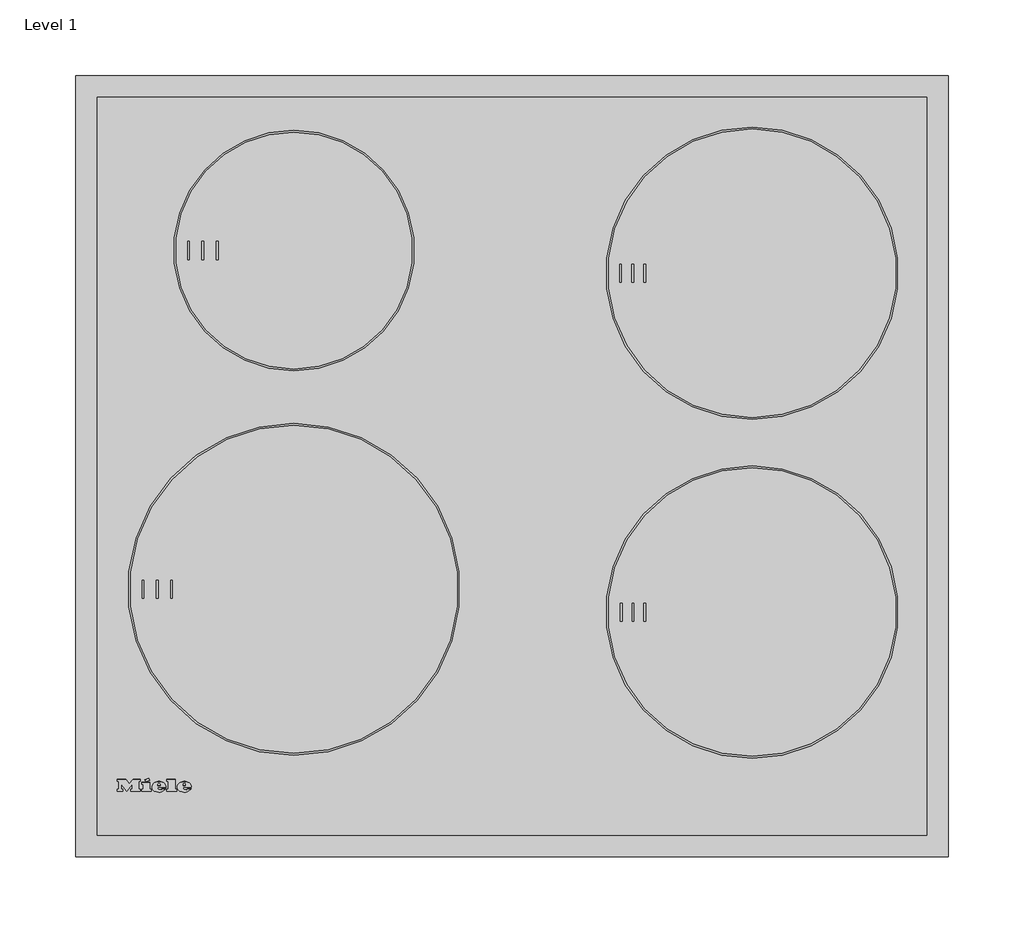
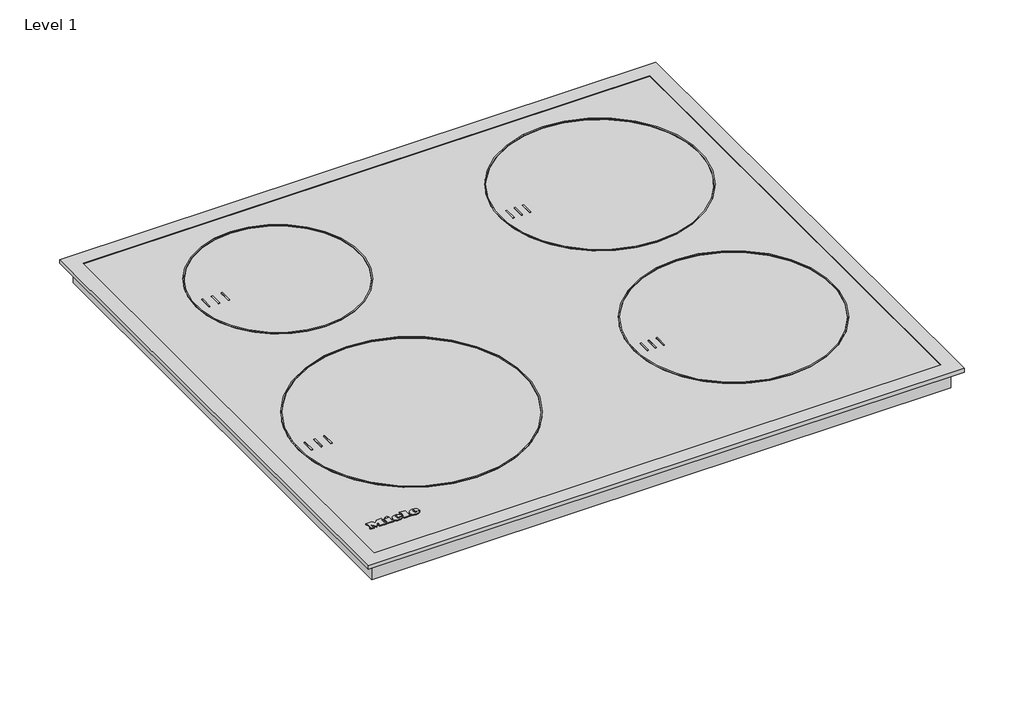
# One storey: 1 proxy.
"""IFC4 building model written with IfcOpenShell, lengths in millimetres."""

import ifcopenshell
import ifcopenshell.guid

model = None  # the IFC model being written
_history = None  # IfcOwnerHistory: only IFC2X3 demands one
_inside = {}  # id of a spatial element -> (the spatial element, [elements in it])
_under = {}  # id of a project, library or spatial element -> (it, [spatial elements below it])
_declared = {}  # id of a project -> (the project, [libraries it declares])
_typed = {}  # id of a type object -> (the type object, [elements of that type])
_made_of = {}  # id of a material, layer set ... -> (it, [elements and type objects made of it])


def new_model(schema):
    """Start an empty IFC model of exactly this schema.

    Asked for "IFC4X3", IfcOpenShell would pick the latest addendum, in which some entities
    have other attributes; the version numbers below select the first issue.
    IFC2X3 requires an IfcOwnerHistory on every rooted entity: one is made here for all.
    """
    global model, _history
    if schema == "IFC4X3":
        model = ifcopenshell.file(schema_version=(4, 3, 0, 0))
    else:
        model = ifcopenshell.file(schema=schema)
    _inside.clear()
    _under.clear()
    _declared.clear()
    _typed.clear()
    _made_of.clear()
    _history = None
    if model.schema == "IFC2X3":
        org = make("IfcOrganization", Name="unknown")
        user = make(
            "IfcPersonAndOrganization",
            ThePerson=make("IfcPerson", FamilyName="unknown"),
            TheOrganization=org,
        )
        app = make(
            "IfcApplication",
            ApplicationDeveloper=org,
            Version="unknown",
            ApplicationFullName="unknown",
            ApplicationIdentifier="unknown",
        )
        _history = make(
            "IfcOwnerHistory",
            OwningUser=user,
            OwningApplication=app,
            ChangeAction="ADDED",
            CreationDate=0,
        )
    return model


def make(cls, **values):
    """One entity of the class cls with the attributes given. An attribute that is None is left unset."""
    return model.create_entity(
        cls, **{name: value for name, value in values.items() if value is not None}
    )


def rooted(cls, **values):
    """An entity with a GlobalId (a new one), such as an element, a storey or a relation."""
    return make(cls, GlobalId=ifcopenshell.guid.new(), OwnerHistory=_history, **values)


def si_unit(unit_type, name, prefix=None):
    """IfcSIUnit, for example si_unit("LENGTHUNIT", "METRE", prefix="MILLI")."""
    return make("IfcSIUnit", UnitType=unit_type, Prefix=prefix, Name=name)


def assignment(units):
    """IfcUnitAssignment: the units of a project."""
    return None if units is None else make("IfcUnitAssignment", Units=units)


def point(xyz):
    """IfcCartesianPoint."""
    return None if xyz is None else make("IfcCartesianPoint", Coordinates=xyz)


def direction(xyz):
    """IfcDirection."""
    return None if xyz is None else make("IfcDirection", DirectionRatios=xyz)


def frame(location, z_axis=None, x_axis=None):
    """IfcAxis2Placement3D, a coordinate frame: its origin and axes. An axis left out is left unset."""
    return make(
        "IfcAxis2Placement3D",
        Location=point(location),
        Axis=direction(z_axis),
        RefDirection=direction(x_axis),
    )


def frame_2d(location, x_axis=None):
    """IfcAxis2Placement2D, a coordinate frame in the plane: its origin and x axis."""
    return make(
        "IfcAxis2Placement2D", Location=point(location), RefDirection=direction(x_axis)
    )


def origin():
    """The frame at (0, 0, 0) with its axes left unset."""
    return frame((0.0, 0.0, 0.0))


def origin_with_axes():
    """The frame at (0, 0, 0) with the z axis (0, 0, 1) and the x axis (1, 0, 0) written out."""
    return frame((0.0, 0.0, 0.0), z_axis=(0.0, 0.0, 1.0), x_axis=(1.0, 0.0, 0.0))


def place(relative_to, where):
    """IfcLocalPlacement: puts the frame where relative to a parent placement (None: the world)."""
    return make(
        "IfcLocalPlacement", PlacementRelTo=relative_to, RelativePlacement=where
    )


def context(
    kind, dimensions, precision=None, world=None, true_north=None, identifier=None
):
    """IfcGeometricRepresentationContext, for example the 3D "Model" context."""
    return make(
        "IfcGeometricRepresentationContext",
        ContextIdentifier=identifier,
        ContextType=kind,
        CoordinateSpaceDimension=dimensions,
        Precision=precision,
        WorldCoordinateSystem=world,
        TrueNorth=true_north,
    )


def project(units=None, contexts=None):
    """IfcProject with its units and contexts."""
    return rooted(
        "IfcProject",
        Name="project",
        RepresentationContexts=contexts,
        UnitsInContext=assignment(units),
    )


def spatial(cls, under=None, at=None, **own):
    """A site, building, storey or space (cls), placed at a placement, below another one or the project."""
    s = rooted(cls, ObjectPlacement=at, **own)
    if under is not None:
        _under.setdefault(under.id(), (under, []))[1].append(s)
    return s


def polyline(points):
    """IfcPolyline through the points."""
    return make("IfcPolyline", Points=[point(p) for p in points])


def circle_curve(where, radius):
    """IfcCircle in the frame where."""
    return make("IfcCircle", Position=where, Radius=radius)


def ellipse_curve(where, semi_axis1, semi_axis2):
    """IfcEllipse in the frame where."""
    return make(
        "IfcEllipse", Position=where, SemiAxis1=semi_axis1, SemiAxis2=semi_axis2
    )


def trimmed(basis, trim1, trim2, sense, master):
    """IfcTrimmedCurve: the piece of a basis curve between two trims."""
    return make(
        "IfcTrimmedCurve",
        BasisCurve=basis,
        Trim1=trim1,
        Trim2=trim2,
        SenseAgreement=sense,
        MasterRepresentation=master,
    )


def segment(curve, same_sense, transition):
    """IfcCompositeCurveSegment."""
    return make(
        "IfcCompositeCurveSegment",
        Transition=transition,
        SameSense=same_sense,
        ParentCurve=curve,
    )


def composite_curve(segments, self_intersect=None):
    """IfcCompositeCurve: segments joined end to end."""
    return make("IfcCompositeCurve", Segments=segments, SelfIntersect=self_intersect)


def outline(outer, holes=None, kind="AREA"):
    """IfcArbitraryClosedProfileDef: a profile drawn as a closed curve; with holes, ...WithVoids."""
    if holes is None:
        return make("IfcArbitraryClosedProfileDef", ProfileType=kind, OuterCurve=outer)
    return make(
        "IfcArbitraryProfileDefWithVoids",
        ProfileType=kind,
        OuterCurve=outer,
        InnerCurves=holes,
    )


def extrude(swept, where, along, depth):
    """IfcExtrudedAreaSolid: the profile swept, set in the frame where, extruded along a direction by depth."""
    return make(
        "IfcExtrudedAreaSolid",
        SweptArea=swept,
        Position=where,
        ExtrudedDirection=direction(along),
        Depth=depth,
    )


def faces_of(points, faces, orient=None, outer=None):
    """IfcFace entities. A face is a list of loops; a loop is a list of indices into points, from 0.

    orient and outer hold one flag for each loop. By default every Orientation is true, the
    first loop of a face is its IfcFaceOuterBound and the others are IfcFaceBound.
    """
    made = []
    for i, loops in enumerate(faces):
        bounds = []
        for j, loop in enumerate(loops):
            is_outer = j == 0 if outer is None else outer[i][j]
            bounds.append(
                make(
                    "IfcFaceOuterBound" if is_outer else "IfcFaceBound",
                    Bound=make("IfcPolyLoop", Polygon=[points[k] for k in loop]),
                    Orientation=True if orient is None else orient[i][j],
                )
            )
        made.append(make("IfcFace", Bounds=bounds))
    return made


def faceted_brep(points, faces, orient=None, outer=None, voids=None):
    """IfcFacetedBrep: a solid bounded by flat faces; with voids (closed shells), ...WithVoids."""
    shared = [point(p) for p in points]
    hull = make("IfcClosedShell", CfsFaces=faces_of(shared, faces, orient, outer))
    if voids is None:
        return make("IfcFacetedBrep", Outer=hull)
    return make(
        "IfcFacetedBrepWithVoids",
        Outer=hull,
        Voids=[
            make(cls, CfsFaces=faces_of(shared, fs, o, b)) for cls, fs, o, b in voids
        ],
    )


def shape(context_of_items, identifier, shape_type, items):
    """IfcShapeRepresentation: the items that make up one representation, for example the "Body"."""
    return make(
        "IfcShapeRepresentation",
        ContextOfItems=context_of_items,
        RepresentationIdentifier=identifier,
        RepresentationType=shape_type,
        Items=items,
    )


def source(mapping_origin, context_of_items, identifier, shape_type, items):
    """IfcRepresentationMap: a shape defined once, which mapped items show again and again."""
    return make(
        "IfcRepresentationMap",
        MappingOrigin=mapping_origin,
        MappedRepresentation=shape(context_of_items, identifier, shape_type, items),
    )


def transform(
    local_origin,
    x_axis=None,
    y_axis=None,
    z_axis=None,
    scale=None,
    scale2=None,
    scale3=None,
    uniform=True,
):
    """IfcCartesianTransformationOperator3D, or its non-uniform kind. x_axis, y_axis, z_axis: its Axis1, 2, 3."""
    if uniform:
        return make(
            "IfcCartesianTransformationOperator3D",
            Axis1=direction(x_axis),
            Axis2=direction(y_axis),
            LocalOrigin=point(local_origin),
            Scale=scale,
            Axis3=direction(z_axis),
        )
    return make(
        "IfcCartesianTransformationOperator3DnonUniform",
        Axis1=direction(x_axis),
        Axis2=direction(y_axis),
        LocalOrigin=point(local_origin),
        Scale=scale,
        Axis3=direction(z_axis),
        Scale2=scale2,
        Scale3=scale3,
    )


def mapped(mapping_source, mapping_target):
    """IfcMappedItem: shows the shape of a source again, moved by a transform."""
    return make(
        "IfcMappedItem", MappingSource=mapping_source, MappingTarget=mapping_target
    )


def made_of(thing, what):
    """Note that an element or type object is made of a material, layer set ...; save() writes the relation."""
    if what is not None:
        _made_of.setdefault(what.id(), (what, []))[1].append(thing)
    return thing


def element(
    cls,
    number,
    at=None,
    inside=None,
    cuts=None,
    type_object=None,
    material=None,
    context=None,
    identifier="Body",
    shape_type=None,
    held_by="IfcProductDefinitionShape",
    body=None,
    shapes=None,
    **own,
):
    """One element of the class cls, such as IfcWall. Its Tag is "e" and its number.

    at: its placement. inside: the storey or other place that contains it. cuts: it is an
    opening in that element (IfcRelVoidsElement). A single representation is given by context,
    identifier, shape_type and body (its items); several are given by shapes. held_by: the class
    of the entity that holds the representations. save() writes the other relations.
    """
    e = rooted(cls, Tag="e%d" % number, ObjectPlacement=at, **own)
    if body is not None:
        shapes = [shape(context, identifier, shape_type, body)]
    if shapes is not None:
        e.Representation = make(held_by, Representations=shapes)
    if inside is not None:
        _inside.setdefault(inside.id(), (inside, []))[1].append(e)
    if cuts is not None:
        rooted(
            "IfcRelVoidsElement", RelatingBuildingElement=cuts, RelatedOpeningElement=e
        )
    if type_object is not None:
        _typed.setdefault(type_object.id(), (type_object, []))[1].append(e)
    return made_of(e, material)


def aggregate(whole, parts):
    """IfcRelAggregates: a whole, such as a stair, and the parts it consists of."""
    return rooted("IfcRelAggregates", RelatingObject=whole, RelatedObjects=parts)


def save(model, path):
    """Write the relations noted so far, then the file.

    IfcRelAggregates (storeys below a building ...), IfcRelContainedInSpatialStructure (elements
    in a storey), IfcRelDefinesByType, IfcRelAssociatesMaterial and IfcRelDeclares: one each for
    every whole, place, type object, material and project.
    """
    for whole, parts in _under.values():
        aggregate(whole, parts)
    for where, things in _inside.values():
        rooted(
            "IfcRelContainedInSpatialStructure",
            RelatedElements=things,
            RelatingStructure=where,
        )
    for kind, things in _typed.values():
        rooted("IfcRelDefinesByType", RelatedObjects=things, RelatingType=kind)
    for what, things in _made_of.values():
        rooted("IfcRelAssociatesMaterial", RelatedObjects=things, RelatingMaterial=what)
    for by, libraries in _declared.values():
        rooted("IfcRelDeclares", RelatingContext=by, RelatedDefinitions=libraries)
    model.write(path)


def plane_surface(at):
    """IfcPlane: the flat surface through the origin of the frame at, square to its z axis."""
    return make("IfcPlane", Position=at)


def cylinder_surface(at, radius):
    """IfcCylindricalSurface: all points at the distance radius from the z axis of the frame at."""
    return make("IfcCylindricalSurface", Position=at, Radius=radius)


def revolved_surface(curve, axis_point, axis_direction):
    """IfcSurfaceOfRevolution: the curve turned about the line through axis_point along axis_direction."""
    return make(
        "IfcSurfaceOfRevolution",
        SweptCurve=make("IfcArbitraryOpenProfileDef", ProfileType="CURVE", Curve=curve),
        AxisPosition=make("IfcAxis1Placement", Location=point(axis_point), Axis=direction(axis_direction)),
    )


def extruded_surface(curve, direction_of_extrusion, depth):
    """IfcSurfaceOfLinearExtrusion: the curve pushed along a direction by depth."""
    return make(
        "IfcSurfaceOfLinearExtrusion",
        SweptCurve=make("IfcArbitraryOpenProfileDef", ProfileType="CURVE", Curve=curve),
        ExtrudedDirection=direction(direction_of_extrusion),
        Depth=depth,
    )


def advanced_brep(points, edges, surfaces, faces):
    """IfcAdvancedBrep: a solid bounded by faces that lie on surfaces and meet in shared edges.

    An edge is (start, end): straight between two places in points (the first is 0);
    or (start, end, curve); or (start, end, curve, False) where it runs against its curve.
    A face is (place in surfaces, loops), or (place, loops, False) where it looks against
    its surface's normal. A loop lists edges by number (the first is 1), with a minus sign
    where the edge is run from its end to its start. The first loop is the outer one.
    """
    corners = [point(p) for p in points]
    vertices = [make("IfcVertexPoint", VertexGeometry=c) for c in corners]
    made = []
    for start, end, *more in edges:
        made.append(
            make(
                "IfcEdgeCurve",
                EdgeStart=vertices[start],
                EdgeEnd=vertices[end],
                EdgeGeometry=more[0] if more else make("IfcPolyline", Points=[corners[start], corners[end]]),
                SameSense=more[1] if len(more) > 1 else True,
            )
        )
    hull = []
    for where, loops, *sense in faces:
        bounds = []
        for j, loop in enumerate(loops):
            ring = [make("IfcOrientedEdge", EdgeElement=made[abs(k) - 1], Orientation=k > 0) for k in loop]
            bounds.append(
                make(
                    "IfcFaceOuterBound" if j == 0 else "IfcFaceBound",
                    Bound=make("IfcEdgeLoop", EdgeList=ring),
                    Orientation=True,
                )
            )
        hull.append(make("IfcAdvancedFace", Bounds=bounds, FaceSurface=surfaces[where], SameSense=sense[0] if sense else True))
    return make("IfcAdvancedBrep", Outer=make("IfcClosedShell", CfsFaces=hull))


def specialty_equipment_da646efd(model_context):
    return source(origin(), model_context, "Body", "SolidModel", [
        extrude(outline(polyline([(279.0, 506.0), (279.0, 8.0), (-279.0, 8.0), (-279.0, 506.0), (279.0, 506.0)])), frame((0.0, 0.0, -18.0), z_axis=(0.0, 0.0, 1.0), x_axis=(1.0, 0.0, 0.0)), (0.0, 0.0, 1.0), 18.0),
        extrude(outline(polyline([(-192.8, 320.7), (-214.2, 320.7), (-214.2, 404.1), (-192.8, 404.1), (-192.8, 454.3), (213.2, 454.3), (213.2, 83.3), (-192.8, 83.3), (-192.8, 320.7)])), frame((0.0, 0.0, -47.7), z_axis=(0.0, 0.0, 1.0), x_axis=(1.0, 0.0, 0.0)), (0.0, 0.0, 1.0), 29.7),
        extrude(outline(polyline([(284.0, 508.0), (284.0, 1.0), (-284.0, 1.0), (-284.0, 508.0), (284.0, 508.0)])), origin_with_axes(), (0.0, 0.0, 1.0), 2.6),
        faceted_brep([(272.9, 499.9, 3.6), (272.9, 499.9, 2.6), (272.9, 14.1, 2.6), (272.9, 14.1, 3.6), (287.0, 514.0, 0.0), (287.0, 514.0, 3.6), (287.0, 0.0, 3.6), (287.0, 0.0, 0.0), (286.0, 513.0, 2.6), (286.0, 513.0, 0.0), (286.0, 1.0, 0.0), (286.0, 1.0, 2.6), (-272.9, 14.1, 2.6), (-272.9, 14.1, 3.6), (-287.0, 0.0, 3.6), (-287.0, 0.0, 0.0), (-286.0, 1.0, 0.0), (-286.0, 1.0, 2.6), (-272.9, 499.9, 2.6), (-272.9, 499.9, 3.6), (-287.0, 514.0, 3.6), (-287.0, 514.0, 0.0), (-286.0, 513.0, 0.0), (-286.0, 513.0, 2.6)], [[[0, 1, 2, 3]], [[4, 5, 6, 7]], [[8, 9, 10, 11]], [[3, 2, 12, 13]], [[7, 6, 14, 15]], [[11, 10, 16, 17]], [[13, 12, 18, 19]], [[15, 14, 20, 21]], [[17, 16, 22, 23]], [[19, 18, 1, 0]], [[5, 20, 14, 6], [3, 13, 19, 0]], [[21, 20, 5, 4]], [[7, 15, 21, 4], [9, 22, 16, 10]], [[23, 22, 9, 8]], [[11, 17, 23, 8], [1, 18, 12, 2]]]),
        extrude(outline(polyline([(151.2772603, 417.5), (143.9, 417.5), (143.9, 418.7557039), (150.0215564, 418.7557039), (150.0215564, 422.0519266), (144.370889, 422.0519266), (144.370889, 423.3076304), (150.0215564, 423.3076304), (150.0215564, 426.2899271), (144.056963, 426.2899271), (144.056963, 427.545631), (151.2772603, 427.545631), (151.2772603, 417.5)])), frame((0.0, 0.0, -78.7), z_axis=(0.0, 0.0, 1.0), x_axis=(1.0, 0.0, 0.0)), (0.0, 0.0, 1.0), 1.0),
        extrude(outline(polyline([(142.0164442, 417.5), (135.7379248, 417.5), (135.7379248, 418.7557039), (140.7607403, 418.7557039), (140.7607403, 427.545631), (142.0164442, 427.545631), (142.0164442, 417.5)])), frame((0.0, 0.0, -78.7), z_axis=(0.0, 0.0, 1.0), x_axis=(1.0, 0.0, 0.0)), (0.0, 0.0, 1.0), 1.0),
        extrude(outline(composite_curve([segment(trimmed(circle_curve(frame_2d((143.9, 422.5)), 7.5), [point((143.9, 430.0))], [point((143.9, 415.0))], False, "CARTESIAN"), True, "CONTINUOUS"), segment(trimmed(circle_curve(frame_2d((143.9, 422.5)), 7.5), [point((143.9, 415.0))], [point((143.9, 430.0))], False, "CARTESIAN"), True, "CONTINUOUS")], self_intersect=False)), frame((0.0, 0.0, -77.7), z_axis=(0.0, 0.0, 1.0), x_axis=(1.0, 0.0, 0.0)), (0.0, 0.0, 1.0), 30.0),
        extrude(outline(composite_curve([segment(trimmed(circle_curve(frame_2d((158.0, 384.1)), 96.2), [point((158.0, 480.3))], [point((158.0, 287.9))], False, "CARTESIAN"), True, "CONTINUOUS"), segment(trimmed(circle_curve(frame_2d((158.0, 384.1)), 96.2), [point((158.0, 287.9))], [point((158.0, 480.3))], False, "CARTESIAN"), True, "CONTINUOUS")], self_intersect=False), holes=[composite_curve([segment(trimmed(circle_curve(frame_2d((158.0, 384.1)), 95.0), [point((158.0, 479.1))], [point((158.0, 289.1))], True, "CARTESIAN"), True, "CONTINUOUS"), segment(trimmed(circle_curve(frame_2d((158.0, 384.1)), 95.0), [point((158.0, 289.1))], [point((158.0, 479.1))], True, "CARTESIAN"), True, "CONTINUOUS")], self_intersect=False)]), frame((0.0, 0.0, 2.6), z_axis=(0.0, 0.0, 1.0), x_axis=(1.0, 0.0, 0.0)), (0.0, 0.0, 1.0), 1.0),
        extrude(outline(polyline([(86.8, 390.1), (88.0, 390.1), (88.0, 378.1), (86.8, 378.1), (86.8, 390.1)])), frame((0.0, 0.0, 2.6), z_axis=(0.0, 0.0, 1.0), x_axis=(1.0, 0.0, 0.0)), (0.0, 0.0, 1.0), 1.0),
        extrude(outline(polyline([(78.8, 378.1), (78.8, 390.1), (80.0, 390.1), (80.0, 378.1), (78.8, 378.1)])), frame((0.0, 0.0, 2.6), z_axis=(0.0, 0.0, 1.0), x_axis=(1.0, 0.0, 0.0)), (0.0, 0.0, 1.0), 1.0),
        extrude(outline(polyline([(70.8, 390.1), (72.0, 390.1), (72.0, 378.1), (70.8, 378.1), (70.8, 390.1)])), frame((0.0, 0.0, 2.6), z_axis=(0.0, 0.0, 1.0), x_axis=(1.0, 0.0, 0.0)), (0.0, 0.0, 1.0), 1.0),
        extrude(outline(composite_curve([segment(trimmed(circle_curve(frame_2d((-143.5, 399.1)), 79.2), [point((-143.5, 478.3))], [point((-143.5, 319.9))], False, "CARTESIAN"), True, "CONTINUOUS"), segment(trimmed(circle_curve(frame_2d((-143.5, 399.1)), 79.2), [point((-143.5, 319.9))], [point((-143.5, 478.3))], False, "CARTESIAN"), True, "CONTINUOUS")], self_intersect=False), holes=[composite_curve([segment(trimmed(circle_curve(frame_2d((-143.5, 399.1)), 78.0), [point((-143.5, 477.1))], [point((-143.5, 321.1))], True, "CARTESIAN"), True, "CONTINUOUS"), segment(trimmed(circle_curve(frame_2d((-143.5, 399.1)), 78.0), [point((-143.5, 321.1))], [point((-143.5, 477.1))], True, "CARTESIAN"), True, "CONTINUOUS")], self_intersect=False)]), frame((0.0, 0.0, 2.6), z_axis=(0.0, 0.0, 1.0), x_axis=(1.0, 0.0, 0.0)), (0.0, 0.0, 1.0), 1.0),
        extrude(outline(polyline([(-194.7, 405.1), (-193.5, 405.1), (-193.5, 393.1), (-194.7, 393.1), (-194.7, 405.1)])), frame((0.0, 0.0, 2.6), z_axis=(0.0, 0.0, 1.0), x_axis=(1.0, 0.0, 0.0)), (0.0, 0.0, 1.0), 1.0),
        extrude(outline(polyline([(-204.1, 405.1), (-202.9, 405.1), (-202.9, 393.1), (-204.1, 393.1), (-204.1, 405.1)])), frame((0.0, 0.0, 2.6), z_axis=(0.0, 0.0, 1.0), x_axis=(1.0, 0.0, 0.0)), (0.0, 0.0, 1.0), 1.0),
        extrude(outline(polyline([(-213.5, 405.1), (-212.3, 405.1), (-212.3, 393.1), (-213.5, 393.1), (-213.5, 405.1)])), frame((0.0, 0.0, 2.6), z_axis=(0.0, 0.0, 1.0), x_axis=(1.0, 0.0, 0.0)), (0.0, 0.0, 1.0), 1.0),
        extrude(outline(composite_curve([segment(trimmed(circle_curve(frame_2d((158.0, 161.1)), 96.2), [point((158.0, 257.3))], [point((158.0, 64.9))], False, "CARTESIAN"), True, "CONTINUOUS"), segment(trimmed(circle_curve(frame_2d((158.0, 161.1)), 96.2), [point((158.0, 64.9))], [point((158.0, 257.3))], False, "CARTESIAN"), True, "CONTINUOUS")], self_intersect=False), holes=[composite_curve([segment(trimmed(circle_curve(frame_2d((158.0, 161.1)), 95.0), [point((158.0, 256.1))], [point((158.0, 66.1))], True, "CARTESIAN"), True, "CONTINUOUS"), segment(trimmed(circle_curve(frame_2d((158.0, 161.1)), 95.0), [point((158.0, 66.1))], [point((158.0, 256.1))], True, "CARTESIAN"), True, "CONTINUOUS")], self_intersect=False)]), frame((0.0, 0.0, 2.6), z_axis=(0.0, 0.0, 1.0), x_axis=(1.0, 0.0, 0.0)), (0.0, 0.0, 1.0), 1.0),
        extrude(outline(polyline([(86.8, 167.1), (88.0, 167.1), (88.0, 155.1), (86.8, 155.1), (86.8, 167.1)])), frame((0.0, 0.0, 2.6), z_axis=(0.0, 0.0, 1.0), x_axis=(1.0, 0.0, 0.0)), (0.0, 0.0, 1.0), 1.0),
        extrude(outline(polyline([(79.1, 167.1), (80.3, 167.1), (80.3, 155.1), (79.1, 155.1), (79.1, 167.1)])), frame((0.0, 0.0, 2.6), z_axis=(0.0, 0.0, 1.0), x_axis=(1.0, 0.0, 0.0)), (0.0, 0.0, 1.0), 1.0),
        extrude(outline(polyline([(71.4, 167.1), (72.6, 167.1), (72.6, 155.1), (71.4, 155.1), (71.4, 167.1)])), frame((0.0, 0.0, 2.6), z_axis=(0.0, 0.0, 1.0), x_axis=(1.0, 0.0, 0.0)), (0.0, 0.0, 1.0), 1.0),
        extrude(outline(composite_curve([segment(trimmed(circle_curve(frame_2d((-143.5, 176.1)), 109.2), [point((-143.5, 285.3))], [point((-143.5, 66.9))], False, "CARTESIAN"), True, "CONTINUOUS"), segment(trimmed(circle_curve(frame_2d((-143.5, 176.1)), 109.2), [point((-143.5, 66.9))], [point((-143.5, 285.3))], False, "CARTESIAN"), True, "CONTINUOUS")], self_intersect=False), holes=[composite_curve([segment(trimmed(circle_curve(frame_2d((-143.5, 176.1)), 108.0), [point((-143.5, 284.1))], [point((-143.5, 68.1))], True, "CARTESIAN"), True, "CONTINUOUS"), segment(trimmed(circle_curve(frame_2d((-143.5, 176.1)), 108.0), [point((-143.5, 68.1))], [point((-143.5, 284.1))], True, "CARTESIAN"), True, "CONTINUOUS")], self_intersect=False)]), frame((0.0, 0.0, 2.6), z_axis=(0.0, 0.0, 1.0), x_axis=(1.0, 0.0, 0.0)), (0.0, 0.0, 1.0), 1.0),
        extrude(outline(polyline([(-243.5, 182.1), (-242.3, 182.1), (-242.3, 170.1), (-243.5, 170.1), (-243.5, 182.1)])), frame((0.0, 0.0, 2.6), z_axis=(0.0, 0.0, 1.0), x_axis=(1.0, 0.0, 0.0)), (0.0, 0.0, 1.0), 1.0),
        extrude(outline(polyline([(-234.1, 182.1), (-232.9, 182.1), (-232.9, 170.1), (-234.1, 170.1), (-234.1, 182.1)])), frame((0.0, 0.0, 2.6), z_axis=(0.0, 0.0, 1.0), x_axis=(1.0, 0.0, 0.0)), (0.0, 0.0, 1.0), 1.0),
        extrude(outline(polyline([(-224.7, 182.1), (-223.5, 182.1), (-223.5, 170.1), (-224.7, 170.1), (-224.7, 182.1)])), frame((0.0, 0.0, 2.6), z_axis=(0.0, 0.0, 1.0), x_axis=(1.0, 0.0, 0.0)), (0.0, 0.0, 1.0), 1.0),
        advanced_brep(
        [(-216.34, 44.9948833, 6.0802537), (-216.34, 45.8028828, 6.0811551), (-210.988, 45.8028828, 6.0811551), (-220.3, 45.8028828, 6.0811551), (-218.1, 43.0988845, 6.0781386), (-211.124, 44.9948833, 6.0802537), (-213.54, 44.9948833, 6.0802537), (-215.444, 44.0988838, 6.0792542), (-216.34, 46.8268821, 6.0822974), (-216.34, 47.6988816, 6.0832701), (-214.972, 47.6988816, 6.0832701), (-214.972, 46.8268821, 6.0822974), (-216.34, 44.9959988, 5.0802543), (-215.444, 44.0999994, 5.0792548), (-213.54, 44.9959988, 5.0802543), (-211.124, 44.9959988, 5.0802543), (-218.1, 43.1, 5.0781393), (-220.3, 45.8039983, 5.0811557), (-210.988, 45.8039983, 5.0811557), (-216.34, 45.8039983, 5.0811557), (-216.34, 46.8279977, 5.082298), (-214.972, 46.8279977, 5.082298), (-214.972, 47.6999971, 5.0832707), (-216.34, 47.6999971, 5.0832707)],
        [
            (0, 1),
            (1, 2),
            (2, 3, ellipse_curve(frame((-215.644, 45.8028828, 6.0811551), z_axis=(0.0, -0.0011155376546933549, 0.9999993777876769), x_axis=(-1.0, 0.0, 0.0)), 4.656, 3.848)),
            (3, 4, circle_curve(frame((-217.2039564, 46.0748826, 6.0814585), z_axis=(0.0, -0.0011155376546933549, 0.9999993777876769), x_axis=(0.0, -0.9999993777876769, -0.0011155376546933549)), 3.1079688)),
            (4, 5, circle_curve(frame((-215.7372064, 48.1868813, 6.0838145), z_axis=(0.0, -0.0011155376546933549, 0.9999993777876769), x_axis=(0.0, -0.9999993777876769, -0.0011155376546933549)), 5.6098607)),
            (5, 6),
            (6, 7, circle_curve(frame((-215.0529412, 45.7388828, 6.0810837), z_axis=(0.0, 0.0011155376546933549, -0.9999993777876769), x_axis=(0.0, -0.9999993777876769, -0.0011155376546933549)), 1.6859795)),
            (7, 0, circle_curve(frame((-215.444, 44.9948833, 6.0802537), z_axis=(0.0, 0.0011155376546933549, -0.9999993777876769), x_axis=(0.0, -0.9999993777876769, -0.0011155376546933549)), 0.896)),
            (8, 9),
            (9, 10, circle_curve(frame((-215.656, 47.6988816, 6.0832701), z_axis=(0.0, 0.0011155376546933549, -0.9999993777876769), x_axis=(0.0, -0.9999993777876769, -0.0011155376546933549)), 0.684)),
            (10, 11),
            (11, 8),
            (12, 13, circle_curve(frame((-215.444, 44.9959988, 5.0802543), z_axis=(0.0, -0.0011155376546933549, 0.9999993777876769), x_axis=(0.0, -0.9999993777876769, -0.0011155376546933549)), 0.896)),
            (13, 14, circle_curve(frame((-215.0529412, 45.7399984, 5.0810843), z_axis=(0.0, -0.0011155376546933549, 0.9999993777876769), x_axis=(0.0, -0.9999993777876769, -0.0011155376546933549)), 1.6859795)),
            (14, 15),
            (15, 16, circle_curve(frame((-215.7372064, 48.1879968, 5.0838151), z_axis=(0.0, 0.0011155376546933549, -0.9999993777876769), x_axis=(0.0, -0.9999993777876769, -0.0011155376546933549)), 5.6098607)),
            (16, 17, circle_curve(frame((-217.2039564, 46.0759981, 5.0814591), z_axis=(0.0, 0.0011155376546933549, -0.9999993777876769), x_axis=(0.0, -0.9999993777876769, -0.0011155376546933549)), 3.1079688)),
            (17, 18, ellipse_curve(frame((-215.644, 45.8039983, 5.0811557), z_axis=(0.0, 0.0011155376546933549, -0.9999993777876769), x_axis=(-1.0, 0.0, 0.0)), 4.656, 3.848)),
            (18, 19),
            (19, 12),
            (20, 21),
            (21, 22),
            (22, 23, circle_curve(frame((-215.656, 47.6999971, 5.0832707), z_axis=(0.0, -0.0011155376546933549, 0.9999993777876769), x_axis=(0.0, -0.9999993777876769, -0.0011155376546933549)), 0.684)),
            (23, 20),
            (0, 12),
            (19, 1),
            (18, 2),
            (5, 15),
            (14, 6),
            (17, 3),
            (13, 7),
            (16, 4),
            (8, 20),
            (23, 9),
            (22, 10),
            (21, 11),
        ],
        [
            plane_surface(frame((-216.34, 45.8028828, 6.0811551), z_axis=(0.0, -0.0011155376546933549, 0.9999993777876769), x_axis=(0.0, 0.9999993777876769, 0.0011155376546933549))),
            plane_surface(frame((-216.34, 45.8039983, 5.0811557), z_axis=(0.0, 0.0011155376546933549, -0.9999993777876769), x_axis=(0.0, -0.9999993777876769, -0.0011155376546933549))),
            plane_surface(frame((-216.34, 44.9948833, 6.0802537), z_axis=(1.0000000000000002, 0.0, 0.0), x_axis=(0.0, 0.001115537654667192, -0.999999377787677))),
            plane_surface(frame((-216.34, 45.8028828, 6.0811551), z_axis=(0.0, -0.999999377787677, -0.001115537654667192), x_axis=(0.0, 0.001115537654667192, -0.999999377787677))),
            plane_surface(frame((-211.124, 44.9948833, 6.0802537), z_axis=(0.0, 0.999999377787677, 0.001115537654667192), x_axis=(0.0, 0.001115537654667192, -0.999999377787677))),
            extruded_surface(trimmed(ellipse_curve(frame((-215.644, 45.8051139, 4.0811563), z_axis=(0.0, -0.0011155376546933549, 0.9999993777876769), x_axis=(-1.0, 0.0, 0.0)), 4.656, 3.848), [point((-210.988, 45.8051139, 4.0811563))], [point((-220.3, 45.8051139, 4.0811563))], True, "CARTESIAN"), (0.0, -0.001115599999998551, 0.9999994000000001), 1.00000002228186),
            revolved_surface(polyline([(-215.0529412, 44.05401994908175, 5.079203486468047), (-215.0529412, 44.052904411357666, 6.079202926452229)]), (-215.0529412, 45.7399984, 5.0810843), (0.0, 0.0011155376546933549, -0.9999993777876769)),
            revolved_surface(polyline([(-215.444, 44.09999935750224, 5.079254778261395), (-215.444, 44.098883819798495, 6.079254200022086)]), (-215.444, 44.9959988, 5.0802543), (0.0, 0.0011155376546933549, -0.9999993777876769)),
            cylinder_surface(frame((-217.2039564, 46.0759981, 5.0814591), z_axis=(0.0, -0.0011155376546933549, 0.9999993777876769), x_axis=(0.0, -0.9999993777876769, -0.0011155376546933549)), 3.1079688),
            cylinder_surface(frame((-215.7372064, 48.1879968, 5.0838151), z_axis=(0.0, -0.0011155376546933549, 0.9999993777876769), x_axis=(0.0, -0.9999993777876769, -0.0011155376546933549)), 5.6098607),
            plane_surface(frame((-216.34, 46.8268821, 6.0822974), z_axis=(1.0000000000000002, 0.0, 0.0), x_axis=(0.0, 0.001115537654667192, -0.999999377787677))),
            revolved_surface(polyline([(-215.656, 47.01599752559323, 5.08250767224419), (-215.656, 47.0148819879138, 6.082507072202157)]), (-215.656, 47.6999971, 5.0832707), (0.0, 0.0011155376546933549, -0.9999993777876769)),
            plane_surface(frame((-214.972, 47.6988816, 6.0832701), z_axis=(-1.0000000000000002, 0.0, 0.0), x_axis=(0.0, 0.001115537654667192, -0.999999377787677))),
            plane_surface(frame((-214.972, 46.8268821, 6.0822974), z_axis=(0.0, 0.999999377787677, 0.001115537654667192), x_axis=(0.0, 0.001115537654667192, -0.999999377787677))),
        ],
        [
            (0, [[1, 2, 3, 4, 5, 6, 7, 8], [9, 10, 11, 12]]),
            (1, [[13, 14, 15, 16, 17, 18, 19, 20], [21, 22, 23, 24]]),
            (2, [[-1, 25, -20, 26]]),
            (3, [[-2, -26, -19, 27]]),
            (4, [[-6, 28, -15, 29]]),
            (5, [[-3, -27, -18, 30]]),
            (6, [[-7, -29, -14, 31]]),
            (7, [[-8, -31, -13, -25]]),
            (8, [[-4, -30, -17, 32]]),
            (9, [[-5, -32, -16, -28]]),
            (10, [[-9, 33, -24, 34]]),
            (11, [[-10, -34, -23, 35]]),
            (12, [[-11, -35, -22, 36]]),
            (13, [[-12, -36, -21, -33]]),
        ],
    ),
        advanced_brep(
        [(-233.036, 44.9948833, 6.0802537), (-233.036, 45.8028828, 6.0811551), (-227.684, 45.8028828, 6.0811551), (-236.996, 45.8028828, 6.0811551), (-234.796, 43.0988845, 6.0781386), (-227.82, 44.9948833, 6.0802537), (-230.236, 44.9948833, 6.0802537), (-232.14, 44.0988838, 6.0792542), (-233.036, 46.8268821, 6.0822974), (-233.036, 47.6988816, 6.0832701), (-231.668, 47.6988816, 6.0832701), (-231.668, 46.8268821, 6.0822974), (-233.036, 44.9959988, 5.0802543), (-232.14, 44.0999994, 5.0792548), (-230.236, 44.9959988, 5.0802543), (-227.82, 44.9959988, 5.0802543), (-234.796, 43.1, 5.0781393), (-236.996, 45.8039983, 5.0811557), (-227.684, 45.8039983, 5.0811557), (-233.036, 45.8039983, 5.0811557), (-233.036, 46.8279977, 5.082298), (-231.668, 46.8279977, 5.082298), (-231.668, 47.6999971, 5.0832707), (-233.036, 47.6999971, 5.0832707)],
        [
            (0, 1),
            (1, 2),
            (2, 3, ellipse_curve(frame((-232.34, 45.8028828, 6.0811551), z_axis=(0.0, -0.0011155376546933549, 0.9999993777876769), x_axis=(-1.0, 0.0, 0.0)), 4.656, 3.848)),
            (3, 4, circle_curve(frame((-233.8999564, 46.0748826, 6.0814585), z_axis=(0.0, -0.0011155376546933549, 0.9999993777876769), x_axis=(0.0, -0.9999993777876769, -0.0011155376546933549)), 3.1079688)),
            (4, 5, circle_curve(frame((-232.4332064, 48.1868813, 6.0838145), z_axis=(0.0, -0.0011155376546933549, 0.9999993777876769), x_axis=(0.0, -0.9999993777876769, -0.0011155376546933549)), 5.6098607)),
            (5, 6),
            (6, 7, circle_curve(frame((-231.7489412, 45.7388828, 6.0810837), z_axis=(0.0, 0.0011155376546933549, -0.9999993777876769), x_axis=(0.0, -0.9999993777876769, -0.0011155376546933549)), 1.6859795)),
            (7, 0, circle_curve(frame((-232.14, 44.9948833, 6.0802537), z_axis=(0.0, 0.0011155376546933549, -0.9999993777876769), x_axis=(0.0, -0.9999993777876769, -0.0011155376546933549)), 0.896)),
            (8, 9),
            (9, 10, circle_curve(frame((-232.352, 47.6988816, 6.0832701), z_axis=(0.0, 0.0011155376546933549, -0.9999993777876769), x_axis=(0.0, -0.9999993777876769, -0.0011155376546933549)), 0.684)),
            (10, 11),
            (11, 8),
            (12, 13, circle_curve(frame((-232.14, 44.9959988, 5.0802543), z_axis=(0.0, -0.0011155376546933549, 0.9999993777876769), x_axis=(0.0, -0.9999993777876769, -0.0011155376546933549)), 0.896)),
            (13, 14, circle_curve(frame((-231.7489412, 45.7399984, 5.0810843), z_axis=(0.0, -0.0011155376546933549, 0.9999993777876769), x_axis=(0.0, -0.9999993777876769, -0.0011155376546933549)), 1.6859795)),
            (14, 15),
            (15, 16, circle_curve(frame((-232.4332064, 48.1879968, 5.0838151), z_axis=(0.0, 0.0011155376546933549, -0.9999993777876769), x_axis=(0.0, -0.9999993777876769, -0.0011155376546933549)), 5.6098607)),
            (16, 17, circle_curve(frame((-233.8999564, 46.0759981, 5.0814591), z_axis=(0.0, 0.0011155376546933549, -0.9999993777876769), x_axis=(0.0, -0.9999993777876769, -0.0011155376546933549)), 3.1079688)),
            (17, 18, ellipse_curve(frame((-232.34, 45.8039983, 5.0811557), z_axis=(0.0, 0.0011155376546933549, -0.9999993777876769), x_axis=(-1.0, 0.0, 0.0)), 4.656, 3.848)),
            (18, 19),
            (19, 12),
            (20, 21),
            (21, 22),
            (22, 23, circle_curve(frame((-232.352, 47.6999971, 5.0832707), z_axis=(0.0, -0.0011155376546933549, 0.9999993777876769), x_axis=(0.0, -0.9999993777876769, -0.0011155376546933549)), 0.684)),
            (23, 20),
            (0, 12),
            (19, 1),
            (18, 2),
            (5, 15),
            (14, 6),
            (17, 3),
            (13, 7),
            (16, 4),
            (8, 20),
            (23, 9),
            (22, 10),
            (21, 11),
        ],
        [
            plane_surface(frame((-233.036, 45.8028828, 6.0811551), z_axis=(0.0, -0.0011155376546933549, 0.9999993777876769), x_axis=(0.0, 0.9999993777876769, 0.0011155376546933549))),
            plane_surface(frame((-233.036, 45.8039983, 5.0811557), z_axis=(0.0, 0.0011155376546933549, -0.9999993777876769), x_axis=(0.0, -0.9999993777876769, -0.0011155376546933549))),
            plane_surface(frame((-233.036, 44.9948833, 6.0802537), z_axis=(1.0000000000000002, 0.0, 0.0), x_axis=(0.0, 0.001115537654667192, -0.999999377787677))),
            plane_surface(frame((-233.036, 45.8028828, 6.0811551), z_axis=(0.0, -0.999999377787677, -0.001115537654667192), x_axis=(0.0, 0.001115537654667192, -0.999999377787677))),
            plane_surface(frame((-227.82, 44.9948833, 6.0802537), z_axis=(0.0, 0.999999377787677, 0.001115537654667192), x_axis=(0.0, 0.001115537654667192, -0.999999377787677))),
            extruded_surface(trimmed(ellipse_curve(frame((-232.34, 45.8051139, 4.0811563), z_axis=(0.0, -0.0011155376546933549, 0.9999993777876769), x_axis=(-1.0, 0.0, 0.0)), 4.656, 3.848), [point((-227.684, 45.8051139, 4.0811563))], [point((-236.996, 45.8051139, 4.0811563))], True, "CARTESIAN"), (0.0, -0.001115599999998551, 0.9999994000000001), 1.00000002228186),
            revolved_surface(polyline([(-231.7489412, 44.05401994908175, 5.079203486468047), (-231.7489412, 44.052904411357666, 6.079202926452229)]), (-231.7489412, 45.7399984, 5.0810843), (0.0, 0.0011155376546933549, -0.9999993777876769)),
            revolved_surface(polyline([(-232.14, 44.09999935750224, 5.079254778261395), (-232.14, 44.098883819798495, 6.079254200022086)]), (-232.14, 44.9959988, 5.0802543), (0.0, 0.0011155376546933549, -0.9999993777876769)),
            cylinder_surface(frame((-233.8999564, 46.0759981, 5.0814591), z_axis=(0.0, -0.0011155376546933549, 0.9999993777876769), x_axis=(0.0, -0.9999993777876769, -0.0011155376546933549)), 3.1079688),
            cylinder_surface(frame((-232.4332064, 48.1879968, 5.0838151), z_axis=(0.0, -0.0011155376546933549, 0.9999993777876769), x_axis=(0.0, -0.9999993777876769, -0.0011155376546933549)), 5.6098607),
            plane_surface(frame((-233.036, 46.8268821, 6.0822974), z_axis=(1.0000000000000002, 0.0, 0.0), x_axis=(0.0, 0.001115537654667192, -0.999999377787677))),
            revolved_surface(polyline([(-232.352, 47.01599752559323, 5.08250767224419), (-232.352, 47.0148819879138, 6.082507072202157)]), (-232.352, 47.6999971, 5.0832707), (0.0, 0.0011155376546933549, -0.9999993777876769)),
            plane_surface(frame((-231.668, 47.6988816, 6.0832701), z_axis=(-1.0000000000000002, 0.0, 0.0), x_axis=(0.0, 0.001115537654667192, -0.999999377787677))),
            plane_surface(frame((-231.668, 46.8268821, 6.0822974), z_axis=(0.0, 0.999999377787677, 0.001115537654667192), x_axis=(0.0, 0.001115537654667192, -0.999999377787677))),
        ],
        [
            (0, [[1, 2, 3, 4, 5, 6, 7, 8], [9, 10, 11, 12]]),
            (1, [[13, 14, 15, 16, 17, 18, 19, 20], [21, 22, 23, 24]]),
            (2, [[-1, 25, -20, 26]]),
            (3, [[-2, -26, -19, 27]]),
            (4, [[-6, 28, -15, 29]]),
            (5, [[-3, -27, -18, 30]]),
            (6, [[-7, -29, -14, 31]]),
            (7, [[-8, -31, -13, -25]]),
            (8, [[-4, -30, -17, 32]]),
            (9, [[-5, -32, -16, -28]]),
            (10, [[-9, 33, -24, 34]]),
            (11, [[-10, -34, -23, 35]]),
            (12, [[-11, -35, -22, 36]]),
            (13, [[-12, -36, -21, -33]]),
        ],
    ),
        extrude(outline(polyline([(0.0, 0.0), (-0.0109086, -2.9993294), (-1.4390415, -2.9920868), (-1.4315307, 0.0), (0.0, 0.0)])), frame((-241.78, 50.6279953, 5.086537), z_axis=(0.0, -0.001115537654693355, 0.9999993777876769), x_axis=(-0.4247202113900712, 0.9053240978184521, 0.0010099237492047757)), (0.0, 0.0, 1.0), 1.0),
        extrude(outline(polyline([(-0.4933908, 2.4141097), (-2.7800844, -2.4601583), (-7.0459741, -0.4588767), (-7.4401145, -1.299018), (-8.6568709, -0.728194), (-5.9760369, 4.9862153), (-4.7592805, 4.4153913), (-5.1636142, 3.5535222), (-2.1941493, 2.1604399), (-1.7898157, 3.022309), (-0.4933908, 2.4141097)])), frame((-241.78, 50.6279953, 5.086537), z_axis=(0.0, -0.001115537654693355, 0.9999993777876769), x_axis=(-0.4247202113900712, 0.9053240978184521, 0.0010099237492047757)), (0.0, 0.0, 1.0), 1.0),
        extrude(outline(polyline([(0.0, 0.0), (0.0, -1.304), (-5.504, -1.304), (-5.504, 5.3519999), (-6.488, 5.3519999), (-6.488, 6.696), (0.0, 6.696), (0.0, 5.3519999), (-0.96, 5.3519999), (-0.96, 0.0), (0.0, 0.0)])), frame((-227.236, 49.7959958, 5.0856089), z_axis=(0.0, -0.0011155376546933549, 0.9999993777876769), x_axis=(-1.0, 0.0, 0.0)), (0.0, 0.0, 1.0), 1.0),
        extrude(outline(polyline([(0.0, 0.0), (0.0, -1.304), (-5.576, -1.304), (-7.92, 1.696), (-10.256, -1.304), (-15.128, -1.304), (-15.128, 0.0), (-14.112, 0.0), (-14.112, 5.3519999), (-15.128, 5.3519999), (-15.128, 6.696), (-8.744, 6.696), (-8.744, 5.3519999), (-9.728, 5.3519999), (-9.728, 1.8807777), (-6.136, 6.696), (-2.56, 1.9488752), (-2.56, 5.3519999), (-3.52, 5.3519999), (-3.52, 6.696), (0.0, 6.696), (0.0, 5.3519999), (-0.968, 5.3519999), (-0.968, 0.0), (0.0, 0.0)])), frame((-259.7, 49.7959958, 5.0856089), z_axis=(0.0, -0.0011155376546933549, 0.9999993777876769), x_axis=(-1.0, 0.0, 0.0)), (0.0, 0.0, 1.0), 1.0),
    ])


model = new_model("IFC4")

# Units and contexts
model_context = context("Model", 3, world=origin())
ifc_project = project(units=[si_unit("LENGTHUNIT", "METRE", prefix="MILLI")], contexts=[model_context])

# Site, building, storey
site = spatial("IfcSite", under=ifc_project)
building = spatial("IfcBuilding", under=site)
storey = spatial("IfcBuildingStorey", under=building, Name="Level 1", Elevation=0.0)

# Proxy
placement = place(None, origin())
specialty_equipment_shape = specialty_equipment_da646efd(model_context)
element("IfcBuildingElementProxy", 1, Name="11127270_D_KM7001FR : 26700110_D_11127270_KM7001FR", ObjectType="11127270_D_KM7001FR : 26700110_D_11127270_KM7001FR", at=placement, inside=storey, context=model_context, shape_type="MappedRepresentation", body=[
    mapped(specialty_equipment_shape, transform((0.0, 0.0, 0.0), x_axis=(1.0, 0.0, 0.0), y_axis=(0.0, 1.0, 0.0), z_axis=(0.0, 0.0, 1.0))),
])

save(model, "model.ifc")
